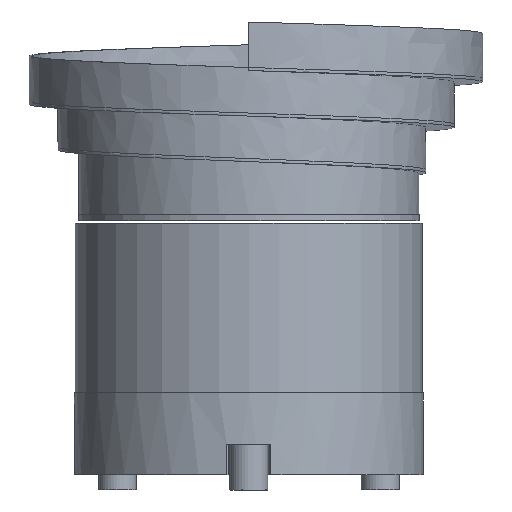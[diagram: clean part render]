
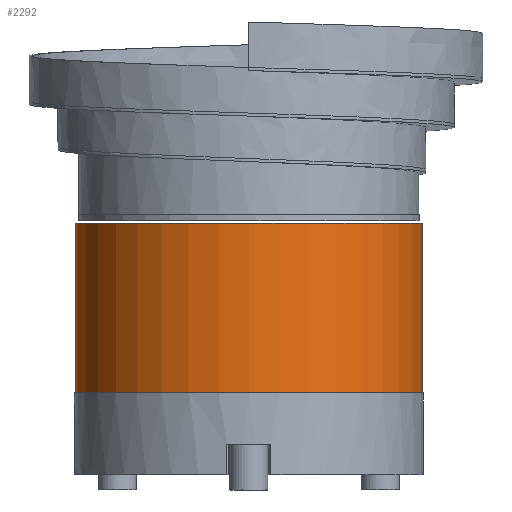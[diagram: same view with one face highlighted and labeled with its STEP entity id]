
A CAD part, front view. The second image highlights one B-rep face of the part: STEP entity #2292.
In plain terms, the highlighted cylindrical face has radius 114.5 mm (diameter 229 mm), a full revolution.
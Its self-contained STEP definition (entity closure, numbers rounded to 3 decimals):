
#331=CIRCLE('',#2711,114.5);
#332=CIRCLE('',#2712,114.5);
#382=CYLINDRICAL_SURFACE('',#2710,114.5);
#487=FACE_OUTER_BOUND('',#647,.T.);
#647=EDGE_LOOP('',(#2070,#2071,#2072,#2073));
#787=LINE('',#4074,#918);
#918=VECTOR('',#3398,114.5);
#1155=VERTEX_POINT('',#4071);
#1156=VERTEX_POINT('',#4073);
#1466=EDGE_CURVE('',#1155,#1155,#331,.T.);
#1467=EDGE_CURVE('',#1155,#1156,#787,.T.);
#1468=EDGE_CURVE('',#1156,#1156,#332,.T.);
#2070=ORIENTED_EDGE('',*,*,#1466,.F.);
#2071=ORIENTED_EDGE('',*,*,#1467,.T.);
#2072=ORIENTED_EDGE('',*,*,#1468,.F.);
#2073=ORIENTED_EDGE('',*,*,#1467,.F.);
#2292=ADVANCED_FACE('',(#487),#382,.T.);
#2710=AXIS2_PLACEMENT_3D('',#4070,#3394,#3395);
#2711=AXIS2_PLACEMENT_3D('',#4072,#3396,#3397);
#2712=AXIS2_PLACEMENT_3D('',#4075,#3399,#3400);
#3394=DIRECTION('center_axis',(0.,1.,0.));
#3395=DIRECTION('ref_axis',(1.,0.,0.));
#3396=DIRECTION('center_axis',(0.,1.,0.));
#3397=DIRECTION('ref_axis',(1.,0.,0.));
#3398=DIRECTION('',(0.,-1.,0.));
#3399=DIRECTION('center_axis',(0.,-1.,0.));
#3400=DIRECTION('ref_axis',(1.,0.,0.));
#4070=CARTESIAN_POINT('Origin',(0.,0.,0.));
#4071=CARTESIAN_POINT('',(-114.5,112.,0.));
#4072=CARTESIAN_POINT('Origin',(0.,112.,0.));
#4073=CARTESIAN_POINT('',(-114.5,0.,0.));
#4074=CARTESIAN_POINT('',(-114.5,0.,0.));
#4075=CARTESIAN_POINT('Origin',(0.,0.,0.));
